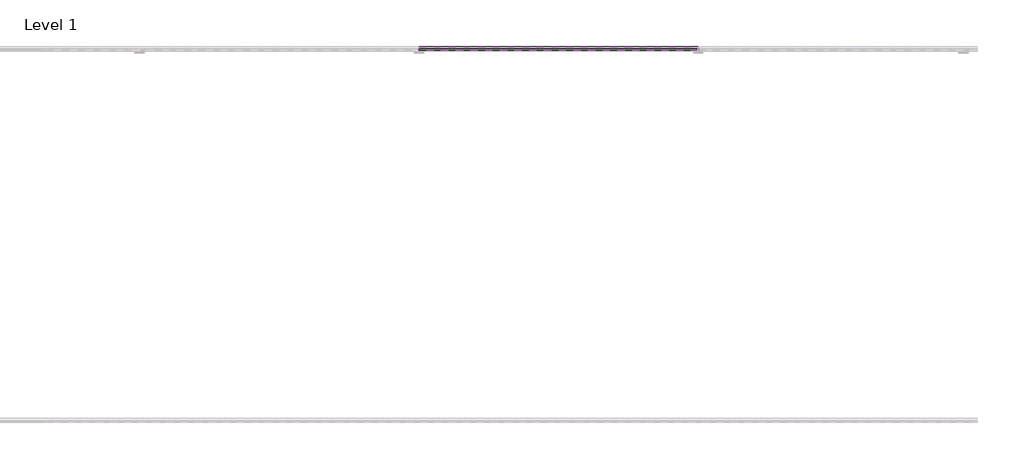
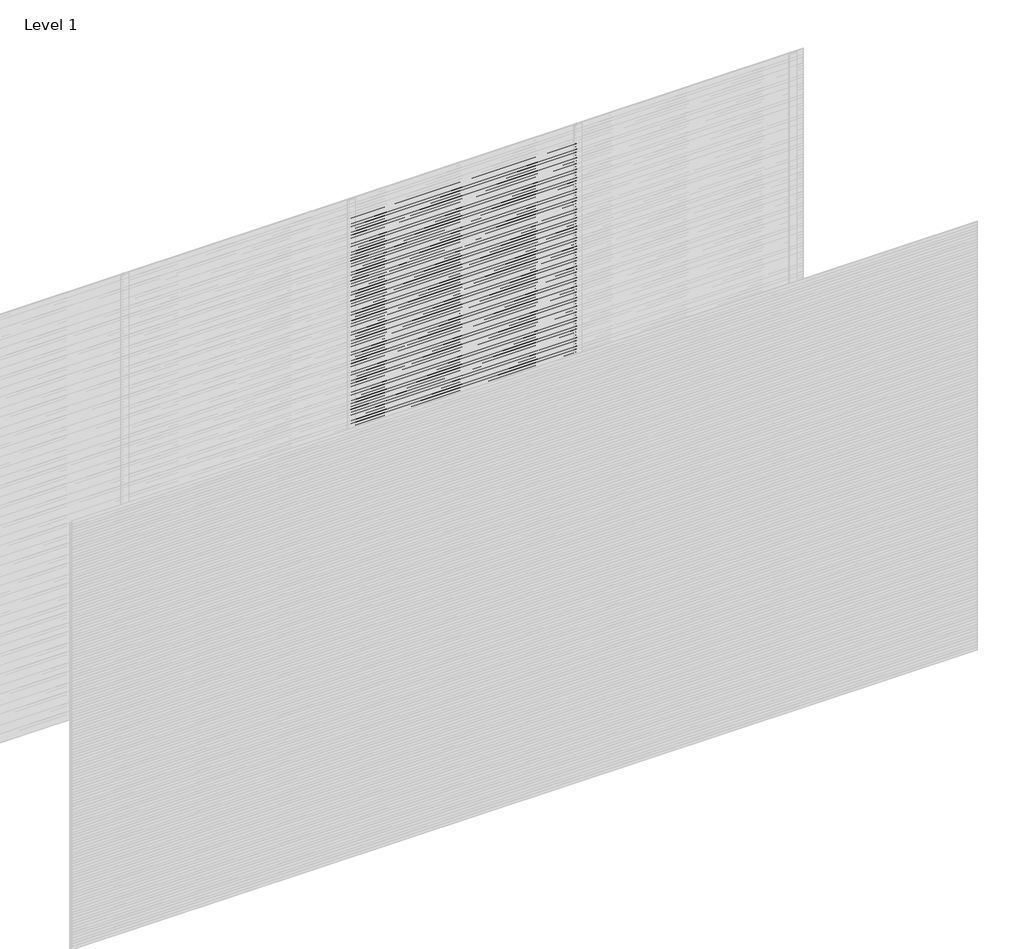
# One storey, part 29 of 31: 103 proxies.
"""IFC4 building model written with IfcOpenShell, lengths in millimetres."""

from ifc_helpers import new_model, si_unit, frame, origin, place, context, project, spatial, polyline, outline, extrude, element, save

model = new_model("IFC4")

# Units and contexts
model_context = context("Model", 3, world=origin())
ifc_project = project(units=[si_unit("LENGTHUNIT", "METRE", prefix="MILLI")], contexts=[model_context])

# Site, building, storey
site = spatial("IfcSite", under=ifc_project)
building = spatial("IfcBuilding", under=site)
storey = spatial("IfcBuildingStorey", under=building, Name="Level 1", Elevation=0.0)

# Proxies
placement = place(None, origin())
element("IfcBuildingElementProxy", 1, Name="Wall Sweeps", at=placement, inside=storey, context=model_context, shape_type="SweptSolid", body=[
    extrude(outline(polyline([(5.0, 2880.0), (5.0, 2868.942893), (24.0, 2853.0), (24.0, 2840.0), (3.0, 2857.6210923), (3.0, 2880.0), (5.0, 2880.0)])), frame((3000.0, 0.0, 0.0), z_axis=(1.0, 0.0, 0.0), x_axis=(0.0, 1.0, 0.0)), (0.0, 0.0, 1.0), 1500.0),
])
element("IfcBuildingElementProxy", 2, Name="Wall Sweeps", at=placement, inside=storey, context=model_context, shape_type="SweptSolid", body=[
    extrude(outline(polyline([(5.0, 2860.0), (5.0, 2848.942893), (24.0, 2833.0), (24.0, 2820.0), (3.0, 2837.6210923), (3.0, 2860.0), (5.0, 2860.0)])), frame((3000.0, 0.0, 0.0), z_axis=(1.0, 0.0, 0.0), x_axis=(0.0, 1.0, 0.0)), (0.0, 0.0, 1.0), 1500.0),
])
element("IfcBuildingElementProxy", 3, Name="Wall Sweeps", at=placement, inside=storey, context=model_context, shape_type="SweptSolid", body=[
    extrude(outline(polyline([(5.0, 2840.0), (5.0, 2828.942893), (24.0, 2813.0), (24.0, 2800.0), (3.0, 2817.6210923), (3.0, 2840.0), (5.0, 2840.0)])), frame((3000.0, 0.0, 0.0), z_axis=(1.0, 0.0, 0.0), x_axis=(0.0, 1.0, 0.0)), (0.0, 0.0, 1.0), 1500.0),
])
element("IfcBuildingElementProxy", 4, Name="Wall Sweeps", at=placement, inside=storey, context=model_context, shape_type="SweptSolid", body=[
    extrude(outline(polyline([(5.0, 2820.0), (5.0, 2808.942893), (24.0, 2793.0), (24.0, 2780.0), (3.0, 2797.6210923), (3.0, 2820.0), (5.0, 2820.0)])), frame((3000.0, 0.0, 0.0), z_axis=(1.0, 0.0, 0.0), x_axis=(0.0, 1.0, 0.0)), (0.0, 0.0, 1.0), 1500.0),
])
element("IfcBuildingElementProxy", 5, Name="Wall Sweeps", at=placement, inside=storey, context=model_context, shape_type="SweptSolid", body=[
    extrude(outline(polyline([(5.0, 2800.0), (5.0, 2788.942893), (24.0, 2773.0), (24.0, 2760.0), (3.0, 2777.6210923), (3.0, 2800.0), (5.0, 2800.0)])), frame((3000.0, 0.0, 0.0), z_axis=(1.0, 0.0, 0.0), x_axis=(0.0, 1.0, 0.0)), (0.0, 0.0, 1.0), 1500.0),
])
element("IfcBuildingElementProxy", 6, Name="Wall Sweeps", at=placement, inside=storey, context=model_context, shape_type="SweptSolid", body=[
    extrude(outline(polyline([(5.0, 2780.0), (5.0, 2768.942893), (24.0, 2753.0), (24.0, 2740.0), (3.0, 2757.6210923), (3.0, 2780.0), (5.0, 2780.0)])), frame((3000.0, 0.0, 0.0), z_axis=(1.0, 0.0, 0.0), x_axis=(0.0, 1.0, 0.0)), (0.0, 0.0, 1.0), 1500.0),
])
element("IfcBuildingElementProxy", 7, Name="Wall Sweeps", at=placement, inside=storey, context=model_context, shape_type="SweptSolid", body=[
    extrude(outline(polyline([(5.0, 2760.0), (5.0, 2748.942893), (24.0, 2733.0), (24.0, 2720.0), (3.0, 2737.6210923), (3.0, 2760.0), (5.0, 2760.0)])), frame((3000.0, 0.0, 0.0), z_axis=(1.0, 0.0, 0.0), x_axis=(0.0, 1.0, 0.0)), (0.0, 0.0, 1.0), 1500.0),
])
element("IfcBuildingElementProxy", 8, Name="Wall Sweeps", at=placement, inside=storey, context=model_context, shape_type="SweptSolid", body=[
    extrude(outline(polyline([(5.0, 2740.0), (5.0, 2728.942893), (24.0, 2713.0), (24.0, 2700.0), (3.0, 2717.6210923), (3.0, 2740.0), (5.0, 2740.0)])), frame((3000.0, 0.0, 0.0), z_axis=(1.0, 0.0, 0.0), x_axis=(0.0, 1.0, 0.0)), (0.0, 0.0, 1.0), 1500.0),
])
element("IfcBuildingElementProxy", 9, Name="Wall Sweeps", at=placement, inside=storey, context=model_context, shape_type="SweptSolid", body=[
    extrude(outline(polyline([(5.0, 2720.0), (5.0, 2708.942893), (24.0, 2693.0), (24.0, 2680.0), (3.0, 2697.6210923), (3.0, 2720.0), (5.0, 2720.0)])), frame((3000.0, 0.0, 0.0), z_axis=(1.0, 0.0, 0.0), x_axis=(0.0, 1.0, 0.0)), (0.0, 0.0, 1.0), 1500.0),
])
element("IfcBuildingElementProxy", 10, Name="Wall Sweeps", at=placement, inside=storey, context=model_context, shape_type="SweptSolid", body=[
    extrude(outline(polyline([(5.0, 2700.0), (5.0, 2688.942893), (24.0, 2673.0), (24.0, 2660.0), (3.0, 2677.6210923), (3.0, 2700.0), (5.0, 2700.0)])), frame((3000.0, 0.0, 0.0), z_axis=(1.0, 0.0, 0.0), x_axis=(0.0, 1.0, 0.0)), (0.0, 0.0, 1.0), 1500.0),
])
element("IfcBuildingElementProxy", 11, Name="Wall Sweeps", at=placement, inside=storey, context=model_context, shape_type="SweptSolid", body=[
    extrude(outline(polyline([(5.0, 2680.0), (5.0, 2668.942893), (24.0, 2653.0), (24.0, 2640.0), (3.0, 2657.6210923), (3.0, 2680.0), (5.0, 2680.0)])), frame((3000.0, 0.0, 0.0), z_axis=(1.0, 0.0, 0.0), x_axis=(0.0, 1.0, 0.0)), (0.0, 0.0, 1.0), 1500.0),
])
element("IfcBuildingElementProxy", 12, Name="Wall Sweeps", at=placement, inside=storey, context=model_context, shape_type="SweptSolid", body=[
    extrude(outline(polyline([(5.0, 2660.0), (5.0, 2648.942893), (24.0, 2633.0), (24.0, 2620.0), (3.0, 2637.6210923), (3.0, 2660.0), (5.0, 2660.0)])), frame((3000.0, 0.0, 0.0), z_axis=(1.0, 0.0, 0.0), x_axis=(0.0, 1.0, 0.0)), (0.0, 0.0, 1.0), 1500.0),
])
element("IfcBuildingElementProxy", 13, Name="Wall Sweeps", at=placement, inside=storey, context=model_context, shape_type="SweptSolid", body=[
    extrude(outline(polyline([(5.0, 2640.0), (5.0, 2628.942893), (24.0, 2613.0), (24.0, 2600.0), (3.0, 2617.6210923), (3.0, 2640.0), (5.0, 2640.0)])), frame((3000.0, 0.0, 0.0), z_axis=(1.0, 0.0, 0.0), x_axis=(0.0, 1.0, 0.0)), (0.0, 0.0, 1.0), 1500.0),
])
element("IfcBuildingElementProxy", 14, Name="Wall Sweeps", at=placement, inside=storey, context=model_context, shape_type="SweptSolid", body=[
    extrude(outline(polyline([(5.0, 2620.0), (5.0, 2608.942893), (24.0, 2593.0), (24.0, 2580.0), (3.0, 2597.6210923), (3.0, 2620.0), (5.0, 2620.0)])), frame((3000.0, 0.0, 0.0), z_axis=(1.0, 0.0, 0.0), x_axis=(0.0, 1.0, 0.0)), (0.0, 0.0, 1.0), 1500.0),
])
element("IfcBuildingElementProxy", 15, Name="Wall Sweeps", at=placement, inside=storey, context=model_context, shape_type="SweptSolid", body=[
    extrude(outline(polyline([(5.0, 2600.0), (5.0, 2588.942893), (24.0, 2573.0), (24.0, 2560.0), (3.0, 2577.6210923), (3.0, 2600.0), (5.0, 2600.0)])), frame((3000.0, 0.0, 0.0), z_axis=(1.0, 0.0, 0.0), x_axis=(0.0, 1.0, 0.0)), (0.0, 0.0, 1.0), 1500.0),
])
element("IfcBuildingElementProxy", 16, Name="Wall Sweeps", at=placement, inside=storey, context=model_context, shape_type="SweptSolid", body=[
    extrude(outline(polyline([(5.0, 2580.0), (5.0, 2568.942893), (24.0, 2553.0), (24.0, 2540.0), (3.0, 2557.6210923), (3.0, 2580.0), (5.0, 2580.0)])), frame((3000.0, 0.0, 0.0), z_axis=(1.0, 0.0, 0.0), x_axis=(0.0, 1.0, 0.0)), (0.0, 0.0, 1.0), 1500.0),
])
element("IfcBuildingElementProxy", 17, Name="Wall Sweeps", at=placement, inside=storey, context=model_context, shape_type="SweptSolid", body=[
    extrude(outline(polyline([(5.0, 2560.0), (5.0, 2548.942893), (24.0, 2533.0), (24.0, 2520.0), (3.0, 2537.6210923), (3.0, 2560.0), (5.0, 2560.0)])), frame((3000.0, 0.0, 0.0), z_axis=(1.0, 0.0, 0.0), x_axis=(0.0, 1.0, 0.0)), (0.0, 0.0, 1.0), 1500.0),
])
element("IfcBuildingElementProxy", 18, Name="Wall Sweeps", at=placement, inside=storey, context=model_context, shape_type="SweptSolid", body=[
    extrude(outline(polyline([(5.0, 2540.0), (5.0, 2528.942893), (24.0, 2513.0), (24.0, 2500.0), (3.0, 2517.6210923), (3.0, 2540.0), (5.0, 2540.0)])), frame((3000.0, 0.0, 0.0), z_axis=(1.0, 0.0, 0.0), x_axis=(0.0, 1.0, 0.0)), (0.0, 0.0, 1.0), 1500.0),
])
element("IfcBuildingElementProxy", 19, Name="Wall Sweeps", at=placement, inside=storey, context=model_context, shape_type="SweptSolid", body=[
    extrude(outline(polyline([(5.0, 2520.0), (5.0, 2508.942893), (24.0, 2493.0), (24.0, 2480.0), (3.0, 2497.6210923), (3.0, 2520.0), (5.0, 2520.0)])), frame((3000.0, 0.0, 0.0), z_axis=(1.0, 0.0, 0.0), x_axis=(0.0, 1.0, 0.0)), (0.0, 0.0, 1.0), 1500.0),
])
element("IfcBuildingElementProxy", 20, Name="Wall Sweeps", at=placement, inside=storey, context=model_context, shape_type="SweptSolid", body=[
    extrude(outline(polyline([(5.0, 2500.0), (5.0, 2488.942893), (24.0, 2473.0), (24.0, 2460.0), (3.0, 2477.6210923), (3.0, 2500.0), (5.0, 2500.0)])), frame((3000.0, 0.0, 0.0), z_axis=(1.0, 0.0, 0.0), x_axis=(0.0, 1.0, 0.0)), (0.0, 0.0, 1.0), 1500.0),
])
element("IfcBuildingElementProxy", 21, Name="Wall Sweeps", at=placement, inside=storey, context=model_context, shape_type="SweptSolid", body=[
    extrude(outline(polyline([(5.0, 2480.0), (5.0, 2468.942893), (24.0, 2453.0), (24.0, 2440.0), (3.0, 2457.6210923), (3.0, 2480.0), (5.0, 2480.0)])), frame((3000.0, 0.0, 0.0), z_axis=(1.0, 0.0, 0.0), x_axis=(0.0, 1.0, 0.0)), (0.0, 0.0, 1.0), 1500.0),
])
element("IfcBuildingElementProxy", 22, Name="Wall Sweeps", at=placement, inside=storey, context=model_context, shape_type="SweptSolid", body=[
    extrude(outline(polyline([(5.0, 2460.0), (5.0, 2448.942893), (24.0, 2433.0), (24.0, 2420.0), (3.0, 2437.6210923), (3.0, 2460.0), (5.0, 2460.0)])), frame((3000.0, 0.0, 0.0), z_axis=(1.0, 0.0, 0.0), x_axis=(0.0, 1.0, 0.0)), (0.0, 0.0, 1.0), 1500.0),
])
element("IfcBuildingElementProxy", 23, Name="Wall Sweeps", at=placement, inside=storey, context=model_context, shape_type="SweptSolid", body=[
    extrude(outline(polyline([(5.0, 2440.0), (5.0, 2428.942893), (24.0, 2413.0), (24.0, 2400.0), (3.0, 2417.6210923), (3.0, 2440.0), (5.0, 2440.0)])), frame((3000.0, 0.0, 0.0), z_axis=(1.0, 0.0, 0.0), x_axis=(0.0, 1.0, 0.0)), (0.0, 0.0, 1.0), 1500.0),
])
element("IfcBuildingElementProxy", 24, Name="Wall Sweeps", at=placement, inside=storey, context=model_context, shape_type="SweptSolid", body=[
    extrude(outline(polyline([(5.0, 2420.0), (5.0, 2408.942893), (24.0, 2393.0), (24.0, 2380.0), (3.0, 2397.6210923), (3.0, 2420.0), (5.0, 2420.0)])), frame((3000.0, 0.0, 0.0), z_axis=(1.0, 0.0, 0.0), x_axis=(0.0, 1.0, 0.0)), (0.0, 0.0, 1.0), 1500.0),
])
element("IfcBuildingElementProxy", 25, Name="Wall Sweeps", at=placement, inside=storey, context=model_context, shape_type="SweptSolid", body=[
    extrude(outline(polyline([(5.0, 2400.0), (5.0, 2388.942893), (24.0, 2373.0), (24.0, 2360.0), (3.0, 2377.6210923), (3.0, 2400.0), (5.0, 2400.0)])), frame((3000.0, 0.0, 0.0), z_axis=(1.0, 0.0, 0.0), x_axis=(0.0, 1.0, 0.0)), (0.0, 0.0, 1.0), 1500.0),
])
element("IfcBuildingElementProxy", 26, Name="Wall Sweeps", at=placement, inside=storey, context=model_context, shape_type="SweptSolid", body=[
    extrude(outline(polyline([(5.0, 2380.0), (5.0, 2368.942893), (24.0, 2353.0), (24.0, 2340.0), (3.0, 2357.6210923), (3.0, 2380.0), (5.0, 2380.0)])), frame((3000.0, 0.0, 0.0), z_axis=(1.0, 0.0, 0.0), x_axis=(0.0, 1.0, 0.0)), (0.0, 0.0, 1.0), 1500.0),
])
element("IfcBuildingElementProxy", 27, Name="Wall Sweeps", at=placement, inside=storey, context=model_context, shape_type="SweptSolid", body=[
    extrude(outline(polyline([(5.0, 2360.0), (5.0, 2348.942893), (24.0, 2333.0), (24.0, 2320.0), (3.0, 2337.6210923), (3.0, 2360.0), (5.0, 2360.0)])), frame((3000.0, 0.0, 0.0), z_axis=(1.0, 0.0, 0.0), x_axis=(0.0, 1.0, 0.0)), (0.0, 0.0, 1.0), 1500.0),
])
element("IfcBuildingElementProxy", 28, Name="Wall Sweeps", at=placement, inside=storey, context=model_context, shape_type="SweptSolid", body=[
    extrude(outline(polyline([(5.0, 2340.0), (5.0, 2328.942893), (24.0, 2313.0), (24.0, 2300.0), (3.0, 2317.6210923), (3.0, 2340.0), (5.0, 2340.0)])), frame((3000.0, 0.0, 0.0), z_axis=(1.0, 0.0, 0.0), x_axis=(0.0, 1.0, 0.0)), (0.0, 0.0, 1.0), 1500.0),
])
element("IfcBuildingElementProxy", 29, Name="Wall Sweeps", at=placement, inside=storey, context=model_context, shape_type="SweptSolid", body=[
    extrude(outline(polyline([(5.0, 2320.0), (5.0, 2308.942893), (24.0, 2293.0), (24.0, 2280.0), (3.0, 2297.6210923), (3.0, 2320.0), (5.0, 2320.0)])), frame((3000.0, 0.0, 0.0), z_axis=(1.0, 0.0, 0.0), x_axis=(0.0, 1.0, 0.0)), (0.0, 0.0, 1.0), 1500.0),
])
element("IfcBuildingElementProxy", 30, Name="Wall Sweeps", at=placement, inside=storey, context=model_context, shape_type="SweptSolid", body=[
    extrude(outline(polyline([(5.0, 2300.0), (5.0, 2288.942893), (24.0, 2273.0), (24.0, 2260.0), (3.0, 2277.6210923), (3.0, 2300.0), (5.0, 2300.0)])), frame((3000.0, 0.0, 0.0), z_axis=(1.0, 0.0, 0.0), x_axis=(0.0, 1.0, 0.0)), (0.0, 0.0, 1.0), 1500.0),
])
element("IfcBuildingElementProxy", 31, Name="Wall Sweeps", at=placement, inside=storey, context=model_context, shape_type="SweptSolid", body=[
    extrude(outline(polyline([(5.0, 2280.0), (5.0, 2268.942893), (24.0, 2253.0), (24.0, 2240.0), (3.0, 2257.6210923), (3.0, 2280.0), (5.0, 2280.0)])), frame((3000.0, 0.0, 0.0), z_axis=(1.0, 0.0, 0.0), x_axis=(0.0, 1.0, 0.0)), (0.0, 0.0, 1.0), 1500.0),
])
element("IfcBuildingElementProxy", 32, Name="Wall Sweeps", at=placement, inside=storey, context=model_context, shape_type="SweptSolid", body=[
    extrude(outline(polyline([(5.0, 2260.0), (5.0, 2248.942893), (24.0, 2233.0), (24.0, 2220.0), (3.0, 2237.6210923), (3.0, 2260.0), (5.0, 2260.0)])), frame((3000.0, 0.0, 0.0), z_axis=(1.0, 0.0, 0.0), x_axis=(0.0, 1.0, 0.0)), (0.0, 0.0, 1.0), 1500.0),
])
element("IfcBuildingElementProxy", 33, Name="Wall Sweeps", at=placement, inside=storey, context=model_context, shape_type="SweptSolid", body=[
    extrude(outline(polyline([(5.0, 2240.0), (5.0, 2228.942893), (24.0, 2213.0), (24.0, 2200.0), (3.0, 2217.6210923), (3.0, 2240.0), (5.0, 2240.0)])), frame((3000.0, 0.0, 0.0), z_axis=(1.0, 0.0, 0.0), x_axis=(0.0, 1.0, 0.0)), (0.0, 0.0, 1.0), 1500.0),
])
element("IfcBuildingElementProxy", 34, Name="Wall Sweeps", at=placement, inside=storey, context=model_context, shape_type="SweptSolid", body=[
    extrude(outline(polyline([(5.0, 2220.0), (5.0, 2208.942893), (24.0, 2193.0), (24.0, 2180.0), (3.0, 2197.6210923), (3.0, 2220.0), (5.0, 2220.0)])), frame((3000.0, 0.0, 0.0), z_axis=(1.0, 0.0, 0.0), x_axis=(0.0, 1.0, 0.0)), (0.0, 0.0, 1.0), 1500.0),
])
element("IfcBuildingElementProxy", 35, Name="Wall Sweeps", at=placement, inside=storey, context=model_context, shape_type="SweptSolid", body=[
    extrude(outline(polyline([(5.0, 2200.0), (5.0, 2188.942893), (24.0, 2173.0), (24.0, 2160.0), (3.0, 2177.6210923), (3.0, 2200.0), (5.0, 2200.0)])), frame((3000.0, 0.0, 0.0), z_axis=(1.0, 0.0, 0.0), x_axis=(0.0, 1.0, 0.0)), (0.0, 0.0, 1.0), 1500.0),
])
element("IfcBuildingElementProxy", 36, Name="Wall Sweeps", at=placement, inside=storey, context=model_context, shape_type="SweptSolid", body=[
    extrude(outline(polyline([(5.0, 2180.0), (5.0, 2168.942893), (24.0, 2153.0), (24.0, 2140.0), (3.0, 2157.6210923), (3.0, 2180.0), (5.0, 2180.0)])), frame((3000.0, 0.0, 0.0), z_axis=(1.0, 0.0, 0.0), x_axis=(0.0, 1.0, 0.0)), (0.0, 0.0, 1.0), 1500.0),
])
element("IfcBuildingElementProxy", 37, Name="Wall Sweeps", at=placement, inside=storey, context=model_context, shape_type="SweptSolid", body=[
    extrude(outline(polyline([(5.0, 2160.0), (5.0, 2148.942893), (24.0, 2133.0), (24.0, 2120.0), (3.0, 2137.6210923), (3.0, 2160.0), (5.0, 2160.0)])), frame((3000.0, 0.0, 0.0), z_axis=(1.0, 0.0, 0.0), x_axis=(0.0, 1.0, 0.0)), (0.0, 0.0, 1.0), 1500.0),
])
element("IfcBuildingElementProxy", 38, Name="Wall Sweeps", at=placement, inside=storey, context=model_context, shape_type="SweptSolid", body=[
    extrude(outline(polyline([(5.0, 2140.0), (5.0, 2128.942893), (24.0, 2113.0), (24.0, 2100.0), (3.0, 2117.6210923), (3.0, 2140.0), (5.0, 2140.0)])), frame((3000.0, 0.0, 0.0), z_axis=(1.0, 0.0, 0.0), x_axis=(0.0, 1.0, 0.0)), (0.0, 0.0, 1.0), 1500.0),
])
element("IfcBuildingElementProxy", 39, Name="Wall Sweeps", at=placement, inside=storey, context=model_context, shape_type="SweptSolid", body=[
    extrude(outline(polyline([(5.0, 2120.0), (5.0, 2108.942893), (24.0, 2093.0), (24.0, 2080.0), (3.0, 2097.6210923), (3.0, 2120.0), (5.0, 2120.0)])), frame((3000.0, 0.0, 0.0), z_axis=(1.0, 0.0, 0.0), x_axis=(0.0, 1.0, 0.0)), (0.0, 0.0, 1.0), 1500.0),
])
element("IfcBuildingElementProxy", 40, Name="Wall Sweeps", at=placement, inside=storey, context=model_context, shape_type="SweptSolid", body=[
    extrude(outline(polyline([(5.0, 2100.0), (5.0, 2088.942893), (24.0, 2073.0), (24.0, 2060.0), (3.0, 2077.6210923), (3.0, 2100.0), (5.0, 2100.0)])), frame((3000.0, 0.0, 0.0), z_axis=(1.0, 0.0, 0.0), x_axis=(0.0, 1.0, 0.0)), (0.0, 0.0, 1.0), 1500.0),
])
element("IfcBuildingElementProxy", 41, Name="Wall Sweeps", at=placement, inside=storey, context=model_context, shape_type="SweptSolid", body=[
    extrude(outline(polyline([(5.0, 2080.0), (5.0, 2068.942893), (24.0, 2053.0), (24.0, 2040.0), (3.0, 2057.6210923), (3.0, 2080.0), (5.0, 2080.0)])), frame((3000.0, 0.0, 0.0), z_axis=(1.0, 0.0, 0.0), x_axis=(0.0, 1.0, 0.0)), (0.0, 0.0, 1.0), 1500.0),
])
element("IfcBuildingElementProxy", 42, Name="Wall Sweeps", at=placement, inside=storey, context=model_context, shape_type="SweptSolid", body=[
    extrude(outline(polyline([(5.0, 2060.0), (5.0, 2048.942893), (24.0, 2033.0), (24.0, 2020.0), (3.0, 2037.6210923), (3.0, 2060.0), (5.0, 2060.0)])), frame((3000.0, 0.0, 0.0), z_axis=(1.0, 0.0, 0.0), x_axis=(0.0, 1.0, 0.0)), (0.0, 0.0, 1.0), 1500.0),
])
element("IfcBuildingElementProxy", 43, Name="Wall Sweeps", at=placement, inside=storey, context=model_context, shape_type="SweptSolid", body=[
    extrude(outline(polyline([(5.0, 2040.0), (5.0, 2028.942893), (24.0, 2013.0), (24.0, 2000.0), (3.0, 2017.6210923), (3.0, 2040.0), (5.0, 2040.0)])), frame((3000.0, 0.0, 0.0), z_axis=(1.0, 0.0, 0.0), x_axis=(0.0, 1.0, 0.0)), (0.0, 0.0, 1.0), 1500.0),
])
element("IfcBuildingElementProxy", 44, Name="Wall Sweeps", at=placement, inside=storey, context=model_context, shape_type="SweptSolid", body=[
    extrude(outline(polyline([(5.0, 2020.0), (5.0, 2008.942893), (24.0, 1993.0), (24.0, 1980.0), (3.0, 1997.6210923), (3.0, 2020.0), (5.0, 2020.0)])), frame((3000.0, 0.0, 0.0), z_axis=(1.0, 0.0, 0.0), x_axis=(0.0, 1.0, 0.0)), (0.0, 0.0, 1.0), 1500.0),
])
element("IfcBuildingElementProxy", 45, Name="Wall Sweeps", at=placement, inside=storey, context=model_context, shape_type="SweptSolid", body=[
    extrude(outline(polyline([(5.0, 2000.0), (5.0, 1988.942893), (24.0, 1973.0), (24.0, 1960.0), (3.0, 1977.6210923), (3.0, 2000.0), (5.0, 2000.0)])), frame((3000.0, 0.0, 0.0), z_axis=(1.0, 0.0, 0.0), x_axis=(0.0, 1.0, 0.0)), (0.0, 0.0, 1.0), 1500.0),
])
element("IfcBuildingElementProxy", 46, Name="Wall Sweeps", at=placement, inside=storey, context=model_context, shape_type="SweptSolid", body=[
    extrude(outline(polyline([(5.0, 1980.0), (5.0, 1968.942893), (24.0, 1953.0), (24.0, 1940.0), (3.0, 1957.6210923), (3.0, 1980.0), (5.0, 1980.0)])), frame((3000.0, 0.0, 0.0), z_axis=(1.0, 0.0, 0.0), x_axis=(0.0, 1.0, 0.0)), (0.0, 0.0, 1.0), 1500.0),
])
element("IfcBuildingElementProxy", 47, Name="Wall Sweeps", at=placement, inside=storey, context=model_context, shape_type="SweptSolid", body=[
    extrude(outline(polyline([(5.0, 1960.0), (5.0, 1948.942893), (24.0, 1933.0), (24.0, 1920.0), (3.0, 1937.6210923), (3.0, 1960.0), (5.0, 1960.0)])), frame((3000.0, 0.0, 0.0), z_axis=(1.0, 0.0, 0.0), x_axis=(0.0, 1.0, 0.0)), (0.0, 0.0, 1.0), 1500.0),
])
element("IfcBuildingElementProxy", 48, Name="Wall Sweeps", at=placement, inside=storey, context=model_context, shape_type="SweptSolid", body=[
    extrude(outline(polyline([(5.0, 1940.0), (5.0, 1928.942893), (24.0, 1913.0), (24.0, 1900.0), (3.0, 1917.6210923), (3.0, 1940.0), (5.0, 1940.0)])), frame((3000.0, 0.0, 0.0), z_axis=(1.0, 0.0, 0.0), x_axis=(0.0, 1.0, 0.0)), (0.0, 0.0, 1.0), 1500.0),
])
element("IfcBuildingElementProxy", 49, Name="Wall Sweeps", at=placement, inside=storey, context=model_context, shape_type="SweptSolid", body=[
    extrude(outline(polyline([(5.0, 1920.0), (5.0, 1908.942893), (24.0, 1893.0), (24.0, 1880.0), (3.0, 1897.6210923), (3.0, 1920.0), (5.0, 1920.0)])), frame((3000.0, 0.0, 0.0), z_axis=(1.0, 0.0, 0.0), x_axis=(0.0, 1.0, 0.0)), (0.0, 0.0, 1.0), 1500.0),
])
element("IfcBuildingElementProxy", 50, Name="Wall Sweeps", at=placement, inside=storey, context=model_context, shape_type="SweptSolid", body=[
    extrude(outline(polyline([(5.0, 1900.0), (5.0, 1888.942893), (24.0, 1873.0), (24.0, 1860.0), (3.0, 1877.6210923), (3.0, 1900.0), (5.0, 1900.0)])), frame((3000.0, 0.0, 0.0), z_axis=(1.0, 0.0, 0.0), x_axis=(0.0, 1.0, 0.0)), (0.0, 0.0, 1.0), 1500.0),
])
element("IfcBuildingElementProxy", 51, Name="Wall Sweeps", at=placement, inside=storey, context=model_context, shape_type="SweptSolid", body=[
    extrude(outline(polyline([(5.0, 1880.0), (5.0, 1868.942893), (24.0, 1853.0), (24.0, 1840.0), (3.0, 1857.6210923), (3.0, 1880.0), (5.0, 1880.0)])), frame((3000.0, 0.0, 0.0), z_axis=(1.0, 0.0, 0.0), x_axis=(0.0, 1.0, 0.0)), (0.0, 0.0, 1.0), 1500.0),
])
element("IfcBuildingElementProxy", 52, Name="Wall Sweeps", at=placement, inside=storey, context=model_context, shape_type="SweptSolid", body=[
    extrude(outline(polyline([(5.0, 1860.0), (5.0, 1848.942893), (24.0, 1833.0), (24.0, 1820.0), (3.0, 1837.6210923), (3.0, 1860.0), (5.0, 1860.0)])), frame((3000.0, 0.0, 0.0), z_axis=(1.0, 0.0, 0.0), x_axis=(0.0, 1.0, 0.0)), (0.0, 0.0, 1.0), 1500.0),
])
element("IfcBuildingElementProxy", 53, Name="Wall Sweeps", at=placement, inside=storey, context=model_context, shape_type="SweptSolid", body=[
    extrude(outline(polyline([(5.0, 1840.0), (5.0, 1828.942893), (24.0, 1813.0), (24.0, 1800.0), (3.0, 1817.6210923), (3.0, 1840.0), (5.0, 1840.0)])), frame((3000.0, 0.0, 0.0), z_axis=(1.0, 0.0, 0.0), x_axis=(0.0, 1.0, 0.0)), (0.0, 0.0, 1.0), 1500.0),
])
element("IfcBuildingElementProxy", 54, Name="Wall Sweeps", at=placement, inside=storey, context=model_context, shape_type="SweptSolid", body=[
    extrude(outline(polyline([(5.0, 1820.0), (5.0, 1808.942893), (24.0, 1793.0), (24.0, 1780.0), (3.0, 1797.6210923), (3.0, 1820.0), (5.0, 1820.0)])), frame((3000.0, 0.0, 0.0), z_axis=(1.0, 0.0, 0.0), x_axis=(0.0, 1.0, 0.0)), (0.0, 0.0, 1.0), 1500.0),
])
element("IfcBuildingElementProxy", 55, Name="Wall Sweeps", at=placement, inside=storey, context=model_context, shape_type="SweptSolid", body=[
    extrude(outline(polyline([(5.0, 1800.0), (5.0, 1788.942893), (24.0, 1773.0), (24.0, 1760.0), (3.0, 1777.6210923), (3.0, 1800.0), (5.0, 1800.0)])), frame((3000.0, 0.0, 0.0), z_axis=(1.0, 0.0, 0.0), x_axis=(0.0, 1.0, 0.0)), (0.0, 0.0, 1.0), 1500.0),
])
element("IfcBuildingElementProxy", 56, Name="Wall Sweeps", at=placement, inside=storey, context=model_context, shape_type="SweptSolid", body=[
    extrude(outline(polyline([(5.0, 1780.0), (5.0, 1768.942893), (24.0, 1753.0), (24.0, 1740.0), (3.0, 1757.6210923), (3.0, 1780.0), (5.0, 1780.0)])), frame((3000.0, 0.0, 0.0), z_axis=(1.0, 0.0, 0.0), x_axis=(0.0, 1.0, 0.0)), (0.0, 0.0, 1.0), 1500.0),
])
element("IfcBuildingElementProxy", 57, Name="Wall Sweeps", at=placement, inside=storey, context=model_context, shape_type="SweptSolid", body=[
    extrude(outline(polyline([(5.0, 1760.0), (5.0, 1748.942893), (24.0, 1733.0), (24.0, 1720.0), (3.0, 1737.6210923), (3.0, 1760.0), (5.0, 1760.0)])), frame((3000.0, 0.0, 0.0), z_axis=(1.0, 0.0, 0.0), x_axis=(0.0, 1.0, 0.0)), (0.0, 0.0, 1.0), 1500.0),
])
element("IfcBuildingElementProxy", 58, Name="Wall Sweeps", at=placement, inside=storey, context=model_context, shape_type="SweptSolid", body=[
    extrude(outline(polyline([(5.0, 1740.0), (5.0, 1728.942893), (24.0, 1713.0), (24.0, 1700.0), (3.0, 1717.6210923), (3.0, 1740.0), (5.0, 1740.0)])), frame((3000.0, 0.0, 0.0), z_axis=(1.0, 0.0, 0.0), x_axis=(0.0, 1.0, 0.0)), (0.0, 0.0, 1.0), 1500.0),
])
element("IfcBuildingElementProxy", 59, Name="Wall Sweeps", at=placement, inside=storey, context=model_context, shape_type="SweptSolid", body=[
    extrude(outline(polyline([(5.0, 1720.0), (5.0, 1708.942893), (24.0, 1693.0), (24.0, 1680.0), (3.0, 1697.6210923), (3.0, 1720.0), (5.0, 1720.0)])), frame((3000.0, 0.0, 0.0), z_axis=(1.0, 0.0, 0.0), x_axis=(0.0, 1.0, 0.0)), (0.0, 0.0, 1.0), 1500.0),
])
element("IfcBuildingElementProxy", 60, Name="Wall Sweeps", at=placement, inside=storey, context=model_context, shape_type="SweptSolid", body=[
    extrude(outline(polyline([(5.0, 1700.0), (5.0, 1688.942893), (24.0, 1673.0), (24.0, 1660.0), (3.0, 1677.6210923), (3.0, 1700.0), (5.0, 1700.0)])), frame((3000.0, 0.0, 0.0), z_axis=(1.0, 0.0, 0.0), x_axis=(0.0, 1.0, 0.0)), (0.0, 0.0, 1.0), 1500.0),
])
element("IfcBuildingElementProxy", 61, Name="Wall Sweeps", at=placement, inside=storey, context=model_context, shape_type="SweptSolid", body=[
    extrude(outline(polyline([(5.0, 1680.0), (5.0, 1668.942893), (24.0, 1653.0), (24.0, 1640.0), (3.0, 1657.6210923), (3.0, 1680.0), (5.0, 1680.0)])), frame((3000.0, 0.0, 0.0), z_axis=(1.0, 0.0, 0.0), x_axis=(0.0, 1.0, 0.0)), (0.0, 0.0, 1.0), 1500.0),
])
element("IfcBuildingElementProxy", 62, Name="Wall Sweeps", at=placement, inside=storey, context=model_context, shape_type="SweptSolid", body=[
    extrude(outline(polyline([(5.0, 1660.0), (5.0, 1648.942893), (24.0, 1633.0), (24.0, 1620.0), (3.0, 1637.6210923), (3.0, 1660.0), (5.0, 1660.0)])), frame((3000.0, 0.0, 0.0), z_axis=(1.0, 0.0, 0.0), x_axis=(0.0, 1.0, 0.0)), (0.0, 0.0, 1.0), 1500.0),
])
element("IfcBuildingElementProxy", 63, Name="Wall Sweeps", at=placement, inside=storey, context=model_context, shape_type="SweptSolid", body=[
    extrude(outline(polyline([(5.0, 1640.0), (5.0, 1628.942893), (24.0, 1613.0), (24.0, 1600.0), (3.0, 1617.6210923), (3.0, 1640.0), (5.0, 1640.0)])), frame((3000.0, 0.0, 0.0), z_axis=(1.0, 0.0, 0.0), x_axis=(0.0, 1.0, 0.0)), (0.0, 0.0, 1.0), 1500.0),
])
element("IfcBuildingElementProxy", 64, Name="Wall Sweeps", at=placement, inside=storey, context=model_context, shape_type="SweptSolid", body=[
    extrude(outline(polyline([(5.0, 1620.0), (5.0, 1608.942893), (24.0, 1593.0), (24.0, 1580.0), (3.0, 1597.6210923), (3.0, 1620.0), (5.0, 1620.0)])), frame((3000.0, 0.0, 0.0), z_axis=(1.0, 0.0, 0.0), x_axis=(0.0, 1.0, 0.0)), (0.0, 0.0, 1.0), 1500.0),
])
element("IfcBuildingElementProxy", 65, Name="Wall Sweeps", at=placement, inside=storey, context=model_context, shape_type="SweptSolid", body=[
    extrude(outline(polyline([(5.0, 1600.0), (5.0, 1588.942893), (24.0, 1573.0), (24.0, 1560.0), (3.0, 1577.6210923), (3.0, 1600.0), (5.0, 1600.0)])), frame((3000.0, 0.0, 0.0), z_axis=(1.0, 0.0, 0.0), x_axis=(0.0, 1.0, 0.0)), (0.0, 0.0, 1.0), 1500.0),
])
element("IfcBuildingElementProxy", 66, Name="Wall Sweeps", at=placement, inside=storey, context=model_context, shape_type="SweptSolid", body=[
    extrude(outline(polyline([(5.0, 1580.0), (5.0, 1568.942893), (24.0, 1553.0), (24.0, 1540.0), (3.0, 1557.6210923), (3.0, 1580.0), (5.0, 1580.0)])), frame((3000.0, 0.0, 0.0), z_axis=(1.0, 0.0, 0.0), x_axis=(0.0, 1.0, 0.0)), (0.0, 0.0, 1.0), 1500.0),
])
element("IfcBuildingElementProxy", 67, Name="Wall Sweeps", at=placement, inside=storey, context=model_context, shape_type="SweptSolid", body=[
    extrude(outline(polyline([(5.0, 1560.0), (5.0, 1548.942893), (24.0, 1533.0), (24.0, 1520.0), (3.0, 1537.6210923), (3.0, 1560.0), (5.0, 1560.0)])), frame((3000.0, 0.0, 0.0), z_axis=(1.0, 0.0, 0.0), x_axis=(0.0, 1.0, 0.0)), (0.0, 0.0, 1.0), 1500.0),
])
element("IfcBuildingElementProxy", 68, Name="Wall Sweeps", at=placement, inside=storey, context=model_context, shape_type="SweptSolid", body=[
    extrude(outline(polyline([(5.0, 1540.0), (5.0, 1528.942893), (24.0, 1513.0), (24.0, 1500.0), (3.0, 1517.6210923), (3.0, 1540.0), (5.0, 1540.0)])), frame((3000.0, 0.0, 0.0), z_axis=(1.0, 0.0, 0.0), x_axis=(0.0, 1.0, 0.0)), (0.0, 0.0, 1.0), 1500.0),
])
element("IfcBuildingElementProxy", 69, Name="Wall Sweeps", at=placement, inside=storey, context=model_context, shape_type="SweptSolid", body=[
    extrude(outline(polyline([(5.0, 1520.0), (5.0, 1508.942893), (24.0, 1493.0), (24.0, 1480.0), (3.0, 1497.6210923), (3.0, 1520.0), (5.0, 1520.0)])), frame((3000.0, 0.0, 0.0), z_axis=(1.0, 0.0, 0.0), x_axis=(0.0, 1.0, 0.0)), (0.0, 0.0, 1.0), 1500.0),
])
element("IfcBuildingElementProxy", 70, Name="Wall Sweeps", at=placement, inside=storey, context=model_context, shape_type="SweptSolid", body=[
    extrude(outline(polyline([(5.0, 1500.0), (5.0, 1488.942893), (24.0, 1473.0), (24.0, 1460.0), (3.0, 1477.6210923), (3.0, 1500.0), (5.0, 1500.0)])), frame((3000.0, 0.0, 0.0), z_axis=(1.0, 0.0, 0.0), x_axis=(0.0, 1.0, 0.0)), (0.0, 0.0, 1.0), 1500.0),
])
element("IfcBuildingElementProxy", 71, Name="Wall Sweeps", at=placement, inside=storey, context=model_context, shape_type="SweptSolid", body=[
    extrude(outline(polyline([(5.0, 1480.0), (5.0, 1468.942893), (24.0, 1453.0), (24.0, 1440.0), (3.0, 1457.6210923), (3.0, 1480.0), (5.0, 1480.0)])), frame((3000.0, 0.0, 0.0), z_axis=(1.0, 0.0, 0.0), x_axis=(0.0, 1.0, 0.0)), (0.0, 0.0, 1.0), 1500.0),
])
element("IfcBuildingElementProxy", 72, Name="Wall Sweeps", at=placement, inside=storey, context=model_context, shape_type="SweptSolid", body=[
    extrude(outline(polyline([(5.0, 1460.0), (5.0, 1448.942893), (24.0, 1433.0), (24.0, 1420.0), (3.0, 1437.6210923), (3.0, 1460.0), (5.0, 1460.0)])), frame((3000.0, 0.0, 0.0), z_axis=(1.0, 0.0, 0.0), x_axis=(0.0, 1.0, 0.0)), (0.0, 0.0, 1.0), 1500.0),
])
element("IfcBuildingElementProxy", 73, Name="Wall Sweeps", at=placement, inside=storey, context=model_context, shape_type="SweptSolid", body=[
    extrude(outline(polyline([(5.0, 1440.0), (5.0, 1428.942893), (24.0, 1413.0), (24.0, 1400.0), (3.0, 1417.6210923), (3.0, 1440.0), (5.0, 1440.0)])), frame((3000.0, 0.0, 0.0), z_axis=(1.0, 0.0, 0.0), x_axis=(0.0, 1.0, 0.0)), (0.0, 0.0, 1.0), 1500.0),
])
element("IfcBuildingElementProxy", 74, Name="Wall Sweeps", at=placement, inside=storey, context=model_context, shape_type="SweptSolid", body=[
    extrude(outline(polyline([(5.0, 1420.0), (5.0, 1408.942893), (24.0, 1393.0), (24.0, 1380.0), (3.0, 1397.6210923), (3.0, 1420.0), (5.0, 1420.0)])), frame((3000.0, 0.0, 0.0), z_axis=(1.0, 0.0, 0.0), x_axis=(0.0, 1.0, 0.0)), (0.0, 0.0, 1.0), 1500.0),
])
element("IfcBuildingElementProxy", 75, Name="Wall Sweeps", at=placement, inside=storey, context=model_context, shape_type="SweptSolid", body=[
    extrude(outline(polyline([(5.0, 1400.0), (5.0, 1388.942893), (24.0, 1373.0), (24.0, 1360.0), (3.0, 1377.6210923), (3.0, 1400.0), (5.0, 1400.0)])), frame((3000.0, 0.0, 0.0), z_axis=(1.0, 0.0, 0.0), x_axis=(0.0, 1.0, 0.0)), (0.0, 0.0, 1.0), 1500.0),
])
element("IfcBuildingElementProxy", 76, Name="Wall Sweeps", at=placement, inside=storey, context=model_context, shape_type="SweptSolid", body=[
    extrude(outline(polyline([(5.0, 1380.0), (5.0, 1368.942893), (24.0, 1353.0), (24.0, 1340.0), (3.0, 1357.6210923), (3.0, 1380.0), (5.0, 1380.0)])), frame((3000.0, 0.0, 0.0), z_axis=(1.0, 0.0, 0.0), x_axis=(0.0, 1.0, 0.0)), (0.0, 0.0, 1.0), 1500.0),
])
element("IfcBuildingElementProxy", 77, Name="Wall Sweeps", at=placement, inside=storey, context=model_context, shape_type="SweptSolid", body=[
    extrude(outline(polyline([(5.0, 1360.0), (5.0, 1348.942893), (24.0, 1333.0), (24.0, 1320.0), (3.0, 1337.6210923), (3.0, 1360.0), (5.0, 1360.0)])), frame((3000.0, 0.0, 0.0), z_axis=(1.0, 0.0, 0.0), x_axis=(0.0, 1.0, 0.0)), (0.0, 0.0, 1.0), 1500.0),
])
element("IfcBuildingElementProxy", 78, Name="Wall Sweeps", at=placement, inside=storey, context=model_context, shape_type="SweptSolid", body=[
    extrude(outline(polyline([(5.0, 1340.0), (5.0, 1328.942893), (24.0, 1313.0), (24.0, 1300.0), (3.0, 1317.6210923), (3.0, 1340.0), (5.0, 1340.0)])), frame((3000.0, 0.0, 0.0), z_axis=(1.0, 0.0, 0.0), x_axis=(0.0, 1.0, 0.0)), (0.0, 0.0, 1.0), 1500.0),
])
element("IfcBuildingElementProxy", 79, Name="Wall Sweeps", at=placement, inside=storey, context=model_context, shape_type="SweptSolid", body=[
    extrude(outline(polyline([(5.0, 1320.0), (5.0, 1308.942893), (24.0, 1293.0), (24.0, 1280.0), (3.0, 1297.6210923), (3.0, 1320.0), (5.0, 1320.0)])), frame((3000.0, 0.0, 0.0), z_axis=(1.0, 0.0, 0.0), x_axis=(0.0, 1.0, 0.0)), (0.0, 0.0, 1.0), 1500.0),
])
element("IfcBuildingElementProxy", 80, Name="Wall Sweeps", at=placement, inside=storey, context=model_context, shape_type="SweptSolid", body=[
    extrude(outline(polyline([(5.0, 1300.0), (5.0, 1288.942893), (24.0, 1273.0), (24.0, 1260.0), (3.0, 1277.6210923), (3.0, 1300.0), (5.0, 1300.0)])), frame((3000.0, 0.0, 0.0), z_axis=(1.0, 0.0, 0.0), x_axis=(0.0, 1.0, 0.0)), (0.0, 0.0, 1.0), 1500.0),
])
element("IfcBuildingElementProxy", 81, Name="Wall Sweeps", at=placement, inside=storey, context=model_context, shape_type="SweptSolid", body=[
    extrude(outline(polyline([(5.0, 1280.0), (5.0, 1268.942893), (24.0, 1253.0), (24.0, 1240.0), (3.0, 1257.6210923), (3.0, 1280.0), (5.0, 1280.0)])), frame((3000.0, 0.0, 0.0), z_axis=(1.0, 0.0, 0.0), x_axis=(0.0, 1.0, 0.0)), (0.0, 0.0, 1.0), 1500.0),
])
element("IfcBuildingElementProxy", 82, Name="Wall Sweeps", at=placement, inside=storey, context=model_context, shape_type="SweptSolid", body=[
    extrude(outline(polyline([(5.0, 1260.0), (5.0, 1248.942893), (24.0, 1233.0), (24.0, 1220.0), (3.0, 1237.6210923), (3.0, 1260.0), (5.0, 1260.0)])), frame((3000.0, 0.0, 0.0), z_axis=(1.0, 0.0, 0.0), x_axis=(0.0, 1.0, 0.0)), (0.0, 0.0, 1.0), 1500.0),
])
element("IfcBuildingElementProxy", 83, Name="Wall Sweeps", at=placement, inside=storey, context=model_context, shape_type="SweptSolid", body=[
    extrude(outline(polyline([(5.0, 1240.0), (5.0, 1228.942893), (24.0, 1213.0), (24.0, 1200.0), (3.0, 1217.6210923), (3.0, 1240.0), (5.0, 1240.0)])), frame((3000.0, 0.0, 0.0), z_axis=(1.0, 0.0, 0.0), x_axis=(0.0, 1.0, 0.0)), (0.0, 0.0, 1.0), 1500.0),
])
element("IfcBuildingElementProxy", 84, Name="Wall Sweeps", at=placement, inside=storey, context=model_context, shape_type="SweptSolid", body=[
    extrude(outline(polyline([(5.0, 1220.0), (5.0, 1208.942893), (24.0, 1193.0), (24.0, 1180.0), (3.0, 1197.6210923), (3.0, 1220.0), (5.0, 1220.0)])), frame((3000.0, 0.0, 0.0), z_axis=(1.0, 0.0, 0.0), x_axis=(0.0, 1.0, 0.0)), (0.0, 0.0, 1.0), 1500.0),
])
element("IfcBuildingElementProxy", 85, Name="Wall Sweeps", at=placement, inside=storey, context=model_context, shape_type="SweptSolid", body=[
    extrude(outline(polyline([(5.0, 1200.0), (5.0, 1188.942893), (24.0, 1173.0), (24.0, 1160.0), (3.0, 1177.6210923), (3.0, 1200.0), (5.0, 1200.0)])), frame((3000.0, 0.0, 0.0), z_axis=(1.0, 0.0, 0.0), x_axis=(0.0, 1.0, 0.0)), (0.0, 0.0, 1.0), 1500.0),
])
element("IfcBuildingElementProxy", 86, Name="Wall Sweeps", at=placement, inside=storey, context=model_context, shape_type="SweptSolid", body=[
    extrude(outline(polyline([(5.0, 1180.0), (5.0, 1168.942893), (24.0, 1153.0), (24.0, 1140.0), (3.0, 1157.6210923), (3.0, 1180.0), (5.0, 1180.0)])), frame((3000.0, 0.0, 0.0), z_axis=(1.0, 0.0, 0.0), x_axis=(0.0, 1.0, 0.0)), (0.0, 0.0, 1.0), 1500.0),
])
element("IfcBuildingElementProxy", 87, Name="Wall Sweeps", at=placement, inside=storey, context=model_context, shape_type="SweptSolid", body=[
    extrude(outline(polyline([(5.0, 1160.0), (5.0, 1148.942893), (24.0, 1133.0), (24.0, 1120.0), (3.0, 1137.6210923), (3.0, 1160.0), (5.0, 1160.0)])), frame((3000.0, 0.0, 0.0), z_axis=(1.0, 0.0, 0.0), x_axis=(0.0, 1.0, 0.0)), (0.0, 0.0, 1.0), 1500.0),
])
element("IfcBuildingElementProxy", 88, Name="Wall Sweeps", at=placement, inside=storey, context=model_context, shape_type="SweptSolid", body=[
    extrude(outline(polyline([(5.0, 1140.0), (5.0, 1128.942893), (24.0, 1113.0), (24.0, 1100.0), (3.0, 1117.6210923), (3.0, 1140.0), (5.0, 1140.0)])), frame((3000.0, 0.0, 0.0), z_axis=(1.0, 0.0, 0.0), x_axis=(0.0, 1.0, 0.0)), (0.0, 0.0, 1.0), 1500.0),
])
element("IfcBuildingElementProxy", 89, Name="Wall Sweeps", at=placement, inside=storey, context=model_context, shape_type="SweptSolid", body=[
    extrude(outline(polyline([(5.0, 1120.0), (5.0, 1108.942893), (24.0, 1093.0), (24.0, 1080.0), (3.0, 1097.6210923), (3.0, 1120.0), (5.0, 1120.0)])), frame((3000.0, 0.0, 0.0), z_axis=(1.0, 0.0, 0.0), x_axis=(0.0, 1.0, 0.0)), (0.0, 0.0, 1.0), 1500.0),
])
element("IfcBuildingElementProxy", 90, Name="Wall Sweeps", at=placement, inside=storey, context=model_context, shape_type="SweptSolid", body=[
    extrude(outline(polyline([(5.0, 1100.0), (5.0, 1088.942893), (24.0, 1073.0), (24.0, 1060.0), (3.0, 1077.6210923), (3.0, 1100.0), (5.0, 1100.0)])), frame((3000.0, 0.0, 0.0), z_axis=(1.0, 0.0, 0.0), x_axis=(0.0, 1.0, 0.0)), (0.0, 0.0, 1.0), 1500.0),
])
element("IfcBuildingElementProxy", 91, Name="Wall Sweeps", at=placement, inside=storey, context=model_context, shape_type="SweptSolid", body=[
    extrude(outline(polyline([(5.0, 1080.0), (5.0, 1068.942893), (24.0, 1053.0), (24.0, 1040.0), (3.0, 1057.6210923), (3.0, 1080.0), (5.0, 1080.0)])), frame((3000.0, 0.0, 0.0), z_axis=(1.0, 0.0, 0.0), x_axis=(0.0, 1.0, 0.0)), (0.0, 0.0, 1.0), 1500.0),
])
element("IfcBuildingElementProxy", 92, Name="Wall Sweeps", at=placement, inside=storey, context=model_context, shape_type="SweptSolid", body=[
    extrude(outline(polyline([(5.0, 1060.0), (5.0, 1048.942893), (24.0, 1033.0), (24.0, 1020.0), (3.0, 1037.6210923), (3.0, 1060.0), (5.0, 1060.0)])), frame((3000.0, 0.0, 0.0), z_axis=(1.0, 0.0, 0.0), x_axis=(0.0, 1.0, 0.0)), (0.0, 0.0, 1.0), 1500.0),
])
element("IfcBuildingElementProxy", 93, Name="Wall Sweeps", at=placement, inside=storey, context=model_context, shape_type="SweptSolid", body=[
    extrude(outline(polyline([(5.0, 1040.0), (5.0, 1028.942893), (24.0, 1013.0), (24.0, 1000.0), (3.0, 1017.6210923), (3.0, 1040.0), (5.0, 1040.0)])), frame((3000.0, 0.0, 0.0), z_axis=(1.0, 0.0, 0.0), x_axis=(0.0, 1.0, 0.0)), (0.0, 0.0, 1.0), 1500.0),
])
element("IfcBuildingElementProxy", 94, Name="Wall Sweeps", at=placement, inside=storey, context=model_context, shape_type="SweptSolid", body=[
    extrude(outline(polyline([(5.0, 1020.0), (5.0, 1008.942893), (24.0, 993.0), (24.0, 980.0), (3.0, 997.6210923), (3.0, 1020.0), (5.0, 1020.0)])), frame((3000.0, 0.0, 0.0), z_axis=(1.0, 0.0, 0.0), x_axis=(0.0, 1.0, 0.0)), (0.0, 0.0, 1.0), 1500.0),
])
element("IfcBuildingElementProxy", 95, Name="Wall Sweeps", at=placement, inside=storey, context=model_context, shape_type="SweptSolid", body=[
    extrude(outline(polyline([(5.0, 1000.0), (5.0, 988.942893), (24.0, 973.0), (24.0, 960.0), (3.0, 977.6210923), (3.0, 1000.0), (5.0, 1000.0)])), frame((3000.0, 0.0, 0.0), z_axis=(1.0, 0.0, 0.0), x_axis=(0.0, 1.0, 0.0)), (0.0, 0.0, 1.0), 1500.0),
])
element("IfcBuildingElementProxy", 96, Name="Wall Sweeps", at=placement, inside=storey, context=model_context, shape_type="SweptSolid", body=[
    extrude(outline(polyline([(5.0, 980.0), (5.0, 968.942893), (24.0, 953.0), (24.0, 940.0), (3.0, 957.6210923), (3.0, 980.0), (5.0, 980.0)])), frame((3000.0, 0.0, 0.0), z_axis=(1.0, 0.0, 0.0), x_axis=(0.0, 1.0, 0.0)), (0.0, 0.0, 1.0), 1500.0),
])
element("IfcBuildingElementProxy", 97, Name="Wall Sweeps", at=placement, inside=storey, context=model_context, shape_type="SweptSolid", body=[
    extrude(outline(polyline([(5.0, 960.0), (5.0, 948.942893), (24.0, 933.0), (24.0, 920.0), (3.0, 937.6210923), (3.0, 960.0), (5.0, 960.0)])), frame((3000.0, 0.0, 0.0), z_axis=(1.0, 0.0, 0.0), x_axis=(0.0, 1.0, 0.0)), (0.0, 0.0, 1.0), 1500.0),
])
element("IfcBuildingElementProxy", 98, Name="Wall Sweeps", at=placement, inside=storey, context=model_context, shape_type="SweptSolid", body=[
    extrude(outline(polyline([(5.0, 940.0), (5.0, 928.942893), (24.0, 913.0), (24.0, 900.0), (3.0, 917.6210923), (3.0, 940.0), (5.0, 940.0)])), frame((3000.0, 0.0, 0.0), z_axis=(1.0, 0.0, 0.0), x_axis=(0.0, 1.0, 0.0)), (0.0, 0.0, 1.0), 1500.0),
])
element("IfcBuildingElementProxy", 99, Name="Wall Sweeps", at=placement, inside=storey, context=model_context, shape_type="SweptSolid", body=[
    extrude(outline(polyline([(5.0, 920.0), (5.0, 908.942893), (24.0, 893.0), (24.0, 880.0), (3.0, 897.6210923), (3.0, 920.0), (5.0, 920.0)])), frame((3000.0, 0.0, 0.0), z_axis=(1.0, 0.0, 0.0), x_axis=(0.0, 1.0, 0.0)), (0.0, 0.0, 1.0), 1500.0),
])
element("IfcBuildingElementProxy", 100, Name="Wall Sweeps", at=placement, inside=storey, context=model_context, shape_type="SweptSolid", body=[
    extrude(outline(polyline([(5.0, 900.0), (5.0, 888.942893), (24.0, 873.0), (24.0, 860.0), (3.0, 877.6210923), (3.0, 900.0), (5.0, 900.0)])), frame((3000.0, 0.0, 0.0), z_axis=(1.0, 0.0, 0.0), x_axis=(0.0, 1.0, 0.0)), (0.0, 0.0, 1.0), 1500.0),
])
element("IfcBuildingElementProxy", 101, Name="Wall Sweeps", at=placement, inside=storey, context=model_context, shape_type="SweptSolid", body=[
    extrude(outline(polyline([(5.0, 880.0), (5.0, 868.942893), (24.0, 853.0), (24.0, 840.0), (3.0, 857.6210923), (3.0, 880.0), (5.0, 880.0)])), frame((3000.0, 0.0, 0.0), z_axis=(1.0, 0.0, 0.0), x_axis=(0.0, 1.0, 0.0)), (0.0, 0.0, 1.0), 1500.0),
])
element("IfcBuildingElementProxy", 102, Name="Wall Sweeps", at=placement, inside=storey, context=model_context, shape_type="SweptSolid", body=[
    extrude(outline(polyline([(5.0, 860.0), (5.0, 848.942893), (24.0, 833.0), (24.0, 820.0), (3.0, 837.6210923), (3.0, 860.0), (5.0, 860.0)])), frame((3000.0, 0.0, 0.0), z_axis=(1.0, 0.0, 0.0), x_axis=(0.0, 1.0, 0.0)), (0.0, 0.0, 1.0), 1500.0),
])
element("IfcBuildingElementProxy", 103, Name="Wall Sweeps", at=placement, inside=storey, context=model_context, shape_type="SweptSolid", body=[
    extrude(outline(polyline([(5.0, 840.0), (5.0, 828.942893), (24.0, 813.0), (24.0, 800.0), (3.0, 817.6210923), (3.0, 840.0), (5.0, 840.0)])), frame((3000.0, 0.0, 0.0), z_axis=(1.0, 0.0, 0.0), x_axis=(0.0, 1.0, 0.0)), (0.0, 0.0, 1.0), 1500.0),
])

save(model, "model.ifc")
